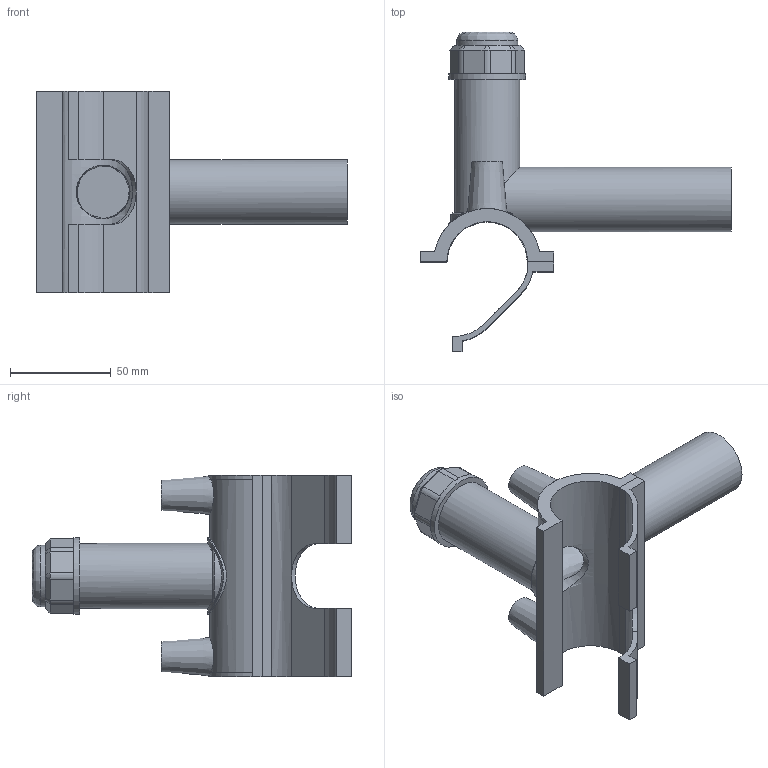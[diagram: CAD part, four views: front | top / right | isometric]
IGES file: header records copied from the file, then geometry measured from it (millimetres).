
Global section: file name: 496304040032.ipt; native system: Autodesk Inventor 2015; preprocessor: unknown; author: KIM; date: 20190124.130559; units: millimetre
Bounding box: 154 x 158.4 x 100 mm (x, y, z)
Volume: 144503.5 mm3; surface area: 70760.1 mm2
Topology: 2 solids, 2 shells, 111 faces, 286 edges, 187 vertices
Faces by surface type: plane 66, cylinder 23, cone 11, revolution 10, bspline 1
Full cylindrical faces by diameter (mm): 4 x2, 30.4 x1, 32 x1, 32.3 x1, 38 x1
